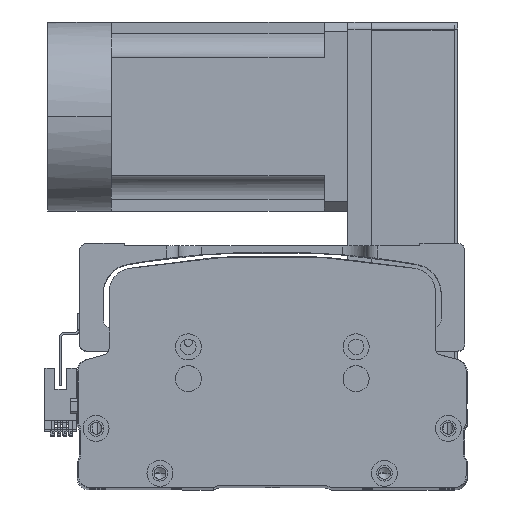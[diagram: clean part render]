
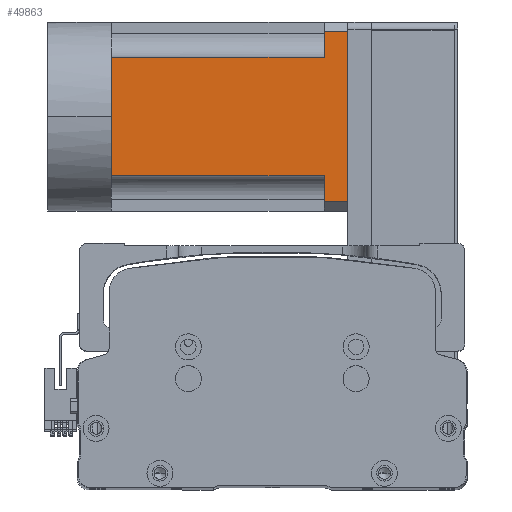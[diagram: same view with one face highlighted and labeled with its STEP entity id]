
A CAD part, top view. The second image highlights one B-rep face of the part: STEP entity #49863.
In plain terms, the highlighted planar face has unit normal (0, 0, 1) as drawn and (0, 0, -1) by its records, which use the part's own axes.
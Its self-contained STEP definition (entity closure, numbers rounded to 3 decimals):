
#391 = VERTEX_POINT ( 'NONE', #49700 ) ;
#574 = EDGE_CURVE ( 'NONE', #34276, #52132, #24998, .T. ) ;
#1151 = ORIENTED_EDGE ( 'NONE', *, *, #36655, .F. ) ;
#1422 = CARTESIAN_POINT ( 'NONE',  ( -25., -27., -40. ) ) ;
#1870 = AXIS2_PLACEMENT_3D ( 'NONE', #31420, #12796, #45569 ) ;
#2641 = CARTESIAN_POINT ( 'NONE',  ( -40., 0., -40. ) ) ;
#2739 = VECTOR ( 'NONE', #27930, 1000. ) ;
#2790 = CARTESIAN_POINT ( 'NONE',  ( -25., 90., -40. ) ) ;
#3917 = VECTOR ( 'NONE', #35523, 1000. ) ;
#3972 = CARTESIAN_POINT ( 'NONE',  ( 36., -27., -40. ) ) ;
#5259 = EDGE_CURVE ( 'NONE', #40392, #24704, #16484, .T. ) ;
#5606 = DIRECTION ( 'NONE',  ( -1., 0., 0. ) ) ;
#5929 = ORIENTED_EDGE ( 'NONE', *, *, #57792, .T. ) ;
#7661 = CARTESIAN_POINT ( 'NONE',  ( -36., 90., -40. ) ) ;
#7936 = EDGE_CURVE ( 'NONE', #12480, #40244, #19177, .T. ) ;
#8344 = VERTEX_POINT ( 'NONE', #15787 ) ;
#9872 = DIRECTION ( 'NONE',  ( 0., -1., 0. ) ) ;
#12480 = VERTEX_POINT ( 'NONE', #7661 ) ;
#12796 = DIRECTION ( 'NONE',  ( 0., 0., -1. ) ) ;
#13361 = CARTESIAN_POINT ( 'NONE',  ( 0., 0., -40. ) ) ;
#15246 = EDGE_LOOP ( 'NONE', ( #1151, #43485, #26185, #47926, #58815, #46647, #43287, #5929, #54516 ) ) ;
#15787 = CARTESIAN_POINT ( 'NONE',  ( 25., 90., -40. ) ) ;
#16484 = LINE ( 'NONE', #3972, #27514 ) ;
#19177 = LINE ( 'NONE', #25530, #55135 ) ;
#19331 = LINE ( 'NONE', #28537, #42801 ) ;
#22659 = DIRECTION ( 'NONE',  ( 0., -1., 0. ) ) ;
#22667 = EDGE_CURVE ( 'NONE', #24704, #8344, #40199, .T. ) ;
#23212 = CARTESIAN_POINT ( 'NONE',  ( -40., 90., -40. ) ) ;
#24099 = CARTESIAN_POINT ( 'NONE',  ( -40., 90., -40. ) ) ;
#24347 = EDGE_CURVE ( 'NONE', #52132, #391, #39902, .T. ) ;
#24704 = VERTEX_POINT ( 'NONE', #47533 ) ;
#24998 = LINE ( 'NONE', #33915, #60959 ) ;
#25530 = CARTESIAN_POINT ( 'NONE',  ( -36., -27., -40. ) ) ;
#26185 = ORIENTED_EDGE ( 'NONE', *, *, #22667, .T. ) ;
#27514 = VECTOR ( 'NONE', #22659, 1000. ) ;
#27924 = LINE ( 'NONE', #52843, #51395 ) ;
#27930 = DIRECTION ( 'NONE',  ( -1., 0., 0. ) ) ;
#28537 = CARTESIAN_POINT ( 'NONE',  ( 25., -27., -40. ) ) ;
#29418 = CARTESIAN_POINT ( 'NONE',  ( 36., 100., -40. ) ) ;
#31420 = CARTESIAN_POINT ( 'NONE',  ( -40., -27., -40. ) ) ;
#33516 = DIRECTION ( 'NONE',  ( -1., 0., 0. ) ) ;
#33915 = CARTESIAN_POINT ( 'NONE',  ( -40., 0., -40. ) ) ;
#34276 = VERTEX_POINT ( 'NONE', #51057 ) ;
#35523 = DIRECTION ( 'NONE',  ( -1., 0., 0. ) ) ;
#36338 = VERTEX_POINT ( 'NONE', #2790 ) ;
#36655 = EDGE_CURVE ( 'NONE', #40392, #40244, #27924, .T. ) ;
#37473 = CARTESIAN_POINT ( 'NONE',  ( -36., 100., -40. ) ) ;
#39884 = VECTOR ( 'NONE', #43854, 1000. ) ;
#39902 = LINE ( 'NONE', #2641, #3917 ) ;
#40199 = LINE ( 'NONE', #23212, #2739 ) ;
#40244 = VERTEX_POINT ( 'NONE', #37473 ) ;
#40392 = VERTEX_POINT ( 'NONE', #29418 ) ;
#40934 = EDGE_CURVE ( 'NONE', #8344, #34276, #19331, .T. ) ;
#42801 = VECTOR ( 'NONE', #9872, 1000. ) ;
#43287 = ORIENTED_EDGE ( 'NONE', *, *, #45734, .T. ) ;
#43485 = ORIENTED_EDGE ( 'NONE', *, *, #5259, .T. ) ;
#43854 = DIRECTION ( 'NONE',  ( 0., 1., 0. ) ) ;
#45219 = VECTOR ( 'NONE', #33516, 1000. ) ;
#45569 = DIRECTION ( 'NONE',  ( -1., 0., 0. ) ) ;
#45734 = EDGE_CURVE ( 'NONE', #391, #36338, #52393, .T. ) ;
#46647 = ORIENTED_EDGE ( 'NONE', *, *, #24347, .T. ) ;
#47533 = CARTESIAN_POINT ( 'NONE',  ( 36., 90., -40. ) ) ;
#47926 = ORIENTED_EDGE ( 'NONE', *, *, #40934, .T. ) ;
#49700 = CARTESIAN_POINT ( 'NONE',  ( -25., 0., -40. ) ) ;
#49863 = ADVANCED_FACE ( 'NONE', ( #58443 ), #54836, .T. ) ;
#51057 = CARTESIAN_POINT ( 'NONE',  ( 25., 0., -40. ) ) ;
#51395 = VECTOR ( 'NONE', #57595, 1000. ) ;
#52132 = VERTEX_POINT ( 'NONE', #13361 ) ;
#52393 = LINE ( 'NONE', #1422, #39884 ) ;
#52843 = CARTESIAN_POINT ( 'NONE',  ( -40., 100., -40. ) ) ;
#54516 = ORIENTED_EDGE ( 'NONE', *, *, #7936, .T. ) ;
#54836 = PLANE ( 'NONE',  #1870 ) ;
#55135 = VECTOR ( 'NONE', #58329, 1000. ) ;
#57595 = DIRECTION ( 'NONE',  ( -1., 0., 0. ) ) ;
#57773 = LINE ( 'NONE', #24099, #45219 ) ;
#57792 = EDGE_CURVE ( 'NONE', #36338, #12480, #57773, .T. ) ;
#58329 = DIRECTION ( 'NONE',  ( 0., 1., 0. ) ) ;
#58443 = FACE_OUTER_BOUND ( 'NONE', #15246, .T. ) ;
#58815 = ORIENTED_EDGE ( 'NONE', *, *, #574, .T. ) ;
#60959 = VECTOR ( 'NONE', #5606, 1000. ) ;
